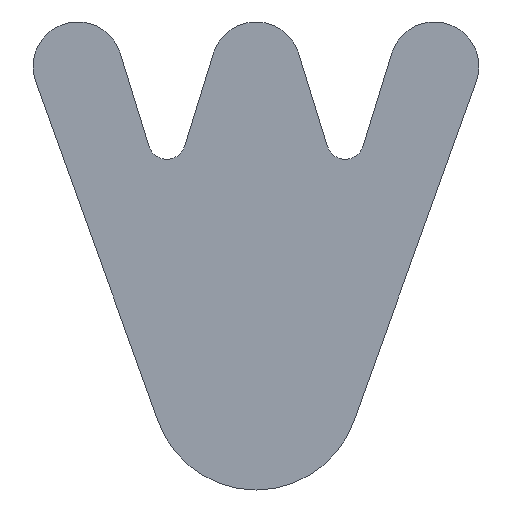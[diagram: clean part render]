
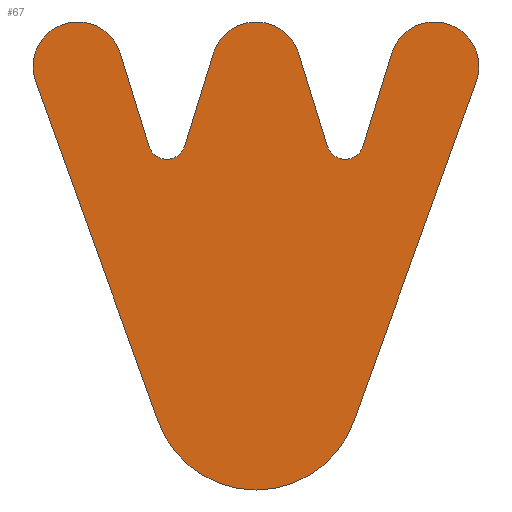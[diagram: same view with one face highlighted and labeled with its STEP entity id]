
A CAD part, front view. The second image highlights one B-rep face of the part: STEP entity #67.
In plain terms, the highlighted planar face has unit normal (0, -1, 0).
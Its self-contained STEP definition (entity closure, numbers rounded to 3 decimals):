
#51=PLANE('',#340);
#67=ADVANCED_FACE('',(#91),#51,.T.);
#91=FACE_OUTER_BOUND('',#107,.T.);
#107=EDGE_LOOP('',(#209,#210,#211,#212,#213,#214,#215,#216,#217,#218,#219,
#220));
#117=LINE('',#449,#141);
#121=LINE('',#461,#145);
#125=LINE('',#473,#149);
#129=LINE('',#485,#153);
#133=LINE('',#497,#157);
#136=LINE('',#506,#160);
#141=VECTOR('',#359,1.);
#145=VECTOR('',#371,1.);
#149=VECTOR('',#383,1.);
#153=VECTOR('',#395,1.);
#157=VECTOR('',#407,1.);
#160=VECTOR('',#418,1.);
#209=ORIENTED_EDGE('',*,*,#265,.T.);
#210=ORIENTED_EDGE('',*,*,#269,.T.);
#211=ORIENTED_EDGE('',*,*,#272,.T.);
#212=ORIENTED_EDGE('',*,*,#275,.T.);
#213=ORIENTED_EDGE('',*,*,#278,.T.);
#214=ORIENTED_EDGE('',*,*,#281,.T.);
#215=ORIENTED_EDGE('',*,*,#284,.T.);
#216=ORIENTED_EDGE('',*,*,#287,.T.);
#217=ORIENTED_EDGE('',*,*,#290,.T.);
#218=ORIENTED_EDGE('',*,*,#293,.T.);
#219=ORIENTED_EDGE('',*,*,#296,.T.);
#220=ORIENTED_EDGE('',*,*,#298,.T.);
#239=VERTEX_POINT('',#440);
#240=VERTEX_POINT('',#442);
#242=VERTEX_POINT('',#448);
#244=VERTEX_POINT('',#454);
#246=VERTEX_POINT('',#460);
#248=VERTEX_POINT('',#466);
#250=VERTEX_POINT('',#472);
#252=VERTEX_POINT('',#478);
#254=VERTEX_POINT('',#484);
#256=VERTEX_POINT('',#490);
#258=VERTEX_POINT('',#496);
#260=VERTEX_POINT('',#502);
#265=EDGE_CURVE('',#240,#239,#302,.T.);
#269=EDGE_CURVE('',#239,#242,#117,.T.);
#272=EDGE_CURVE('',#242,#244,#304,.T.);
#275=EDGE_CURVE('',#244,#246,#121,.T.);
#278=EDGE_CURVE('',#246,#248,#306,.T.);
#281=EDGE_CURVE('',#248,#250,#125,.T.);
#284=EDGE_CURVE('',#250,#252,#308,.T.);
#287=EDGE_CURVE('',#252,#254,#129,.T.);
#290=EDGE_CURVE('',#254,#256,#310,.T.);
#293=EDGE_CURVE('',#256,#258,#133,.T.);
#296=EDGE_CURVE('',#258,#260,#312,.T.);
#298=EDGE_CURVE('',#260,#240,#136,.T.);
#302=CIRCLE('',#317,6.);
#304=CIRCLE('',#321,14.);
#306=CIRCLE('',#325,6.);
#308=CIRCLE('',#329,2.5);
#310=CIRCLE('',#333,6.);
#312=CIRCLE('',#337,2.5);
#317=AXIS2_PLACEMENT_3D('',#441,#352,#353);
#321=AXIS2_PLACEMENT_3D('',#455,#365,#366);
#325=AXIS2_PLACEMENT_3D('',#467,#377,#378);
#329=AXIS2_PLACEMENT_3D('',#479,#389,#390);
#333=AXIS2_PLACEMENT_3D('',#491,#401,#402);
#337=AXIS2_PLACEMENT_3D('',#503,#413,#414);
#340=AXIS2_PLACEMENT_3D('',#508,#421,#422);
#352=DIRECTION('',(0.,-1.,0.));
#353=DIRECTION('',(1.,0.,0.));
#359=DIRECTION('',(0.339,0.,-0.941));
#365=DIRECTION('',(0.,-1.,0.));
#366=DIRECTION('',(1.,0.,0.));
#371=DIRECTION('',(0.339,0.,0.941));
#377=DIRECTION('',(0.,-1.,0.));
#378=DIRECTION('',(1.,0.,0.));
#383=DIRECTION('',(-0.296,0.,-0.955));
#389=DIRECTION('',(0.,1.,0.));
#390=DIRECTION('',(1.,0.,0.));
#395=DIRECTION('',(-0.296,0.,0.955));
#401=DIRECTION('',(0.,-1.,0.));
#402=DIRECTION('',(1.,0.,0.));
#407=DIRECTION('',(-0.296,0.,-0.955));
#413=DIRECTION('',(0.,1.,0.));
#414=DIRECTION('',(1.,0.,0.));
#418=DIRECTION('',(-0.296,0.,0.955));
#421=DIRECTION('',(0.,-1.,0.));
#422=DIRECTION('',(0.,0.,-1.));
#440=CARTESIAN_POINT('',(-64.645,-137.,80.966));
#441=CARTESIAN_POINT('',(-59.,-137.,83.));
#442=CARTESIAN_POINT('',(-53.269,-137.,84.777));
#448=CARTESIAN_POINT('',(-48.171,-137.,35.253));
#449=CARTESIAN_POINT('',(-64.645,-137.,80.966));
#454=CARTESIAN_POINT('',(-21.829,-137.,35.253));
#455=CARTESIAN_POINT('',(-35.,-137.,40.));
#460=CARTESIAN_POINT('',(-5.355,-137.,80.966));
#461=CARTESIAN_POINT('',(-21.829,-137.,35.253));
#466=CARTESIAN_POINT('',(-16.731,-137.,84.777));
#467=CARTESIAN_POINT('',(-11.,-137.,83.));
#472=CARTESIAN_POINT('',(-20.612,-137.,72.26));
#473=CARTESIAN_POINT('',(-16.731,-137.,84.777));
#478=CARTESIAN_POINT('',(-25.388,-137.,72.26));
#479=CARTESIAN_POINT('',(-23.,-137.,73.));
#484=CARTESIAN_POINT('',(-29.269,-137.,84.777));
#485=CARTESIAN_POINT('',(-25.388,-137.,72.26));
#490=CARTESIAN_POINT('',(-40.731,-137.,84.777));
#491=CARTESIAN_POINT('',(-35.,-137.,83.));
#496=CARTESIAN_POINT('',(-44.612,-137.,72.26));
#497=CARTESIAN_POINT('',(-40.731,-137.,84.777));
#502=CARTESIAN_POINT('',(-49.388,-137.,72.26));
#503=CARTESIAN_POINT('',(-47.,-137.,73.));
#506=CARTESIAN_POINT('',(-49.388,-137.,72.26));
#508=CARTESIAN_POINT('',(-59.,-137.,83.));
